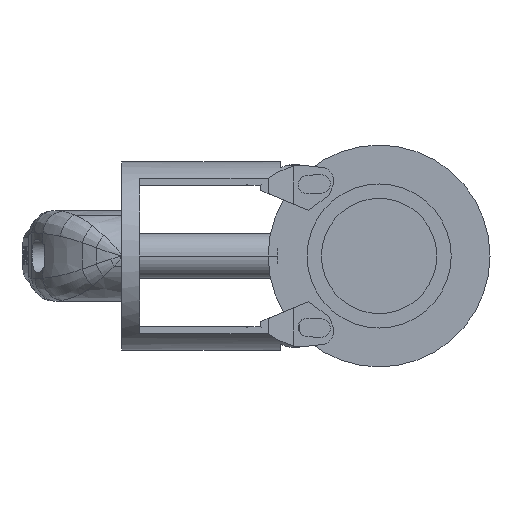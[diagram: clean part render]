
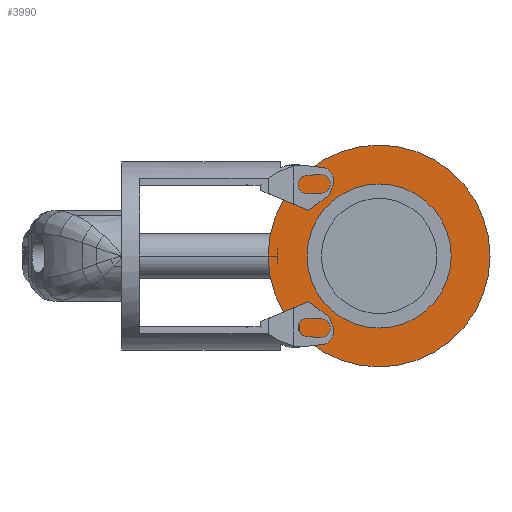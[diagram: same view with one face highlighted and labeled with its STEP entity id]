
A CAD part, left-side view. The second image highlights one B-rep face of the part: STEP entity #3990.
In plain terms, the highlighted planar face has unit normal (-1, 0, 0).
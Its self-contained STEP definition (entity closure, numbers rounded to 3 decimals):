
#800=CARTESIAN_POINT('',(-83.686,-40.688,0.));
#810=VERTEX_POINT('',#800);
#1000=CARTESIAN_POINT('',(-83.686,59.312,
0.));
#1010=VERTEX_POINT('',#1000);
#1040=CARTESIAN_POINT('',(-83.686,9.312,0.));
#1050=DIRECTION('',(-1.,0.,0.));
#1060=DIRECTION('',(0.,-1.,0.));
#1070=AXIS2_PLACEMENT_3D('',#1040,#1050,#1060);
#1080=CIRCLE('',#1070,50.);
#1090=EDGE_CURVE('',#1010,#810,#1080,.T.);
#3740=CARTESIAN_POINT('',(-83.686,56.962,0.));
#3750=DIRECTION('',(1.,0.,0.));
#3760=DIRECTION('',(0.,-1.,0.));
#3770=AXIS2_PLACEMENT_3D('',#3740,#3750,#3760);
#3780=PLANE('',#3770);
#3790=EDGE_CURVE('',#810,#1010,#1080,.T.);
#3800=ORIENTED_EDGE('',*,*,#3790,.T.);
#3810=ORIENTED_EDGE('',*,*,#1090,.T.);
#3820=EDGE_LOOP('',(#3810,#3800));
#3830=FACE_OUTER_BOUND('',#3820,.T.);
#3840=CARTESIAN_POINT('',(-83.686,9.312,0.));
#3850=DIRECTION('',(-1.,0.,0.));
#3860=DIRECTION('',(0.,-1.,0.));
#3870=AXIS2_PLACEMENT_3D('',#3840,#3850,#3860);
#3880=CIRCLE('',#3870,30.);
#3890=CARTESIAN_POINT('',(-83.686,39.312,
0.));
#3900=VERTEX_POINT('',#3890);
#3910=CARTESIAN_POINT('',(-83.686,-20.688,0.));
#3920=VERTEX_POINT('',#3910);
#3930=EDGE_CURVE('',#3900,#3920,#3880,.T.);
#3940=ORIENTED_EDGE('',*,*,#3930,.F.);
#3950=EDGE_CURVE('',#3920,#3900,#3880,.T.);
#3960=ORIENTED_EDGE('',*,*,#3950,.F.);
#3970=EDGE_LOOP('',(#3960,#3940));
#3980=FACE_BOUND('',#3970,.T.);
#3990=ADVANCED_FACE('',(#3830,#3980),#3780,.F.);
